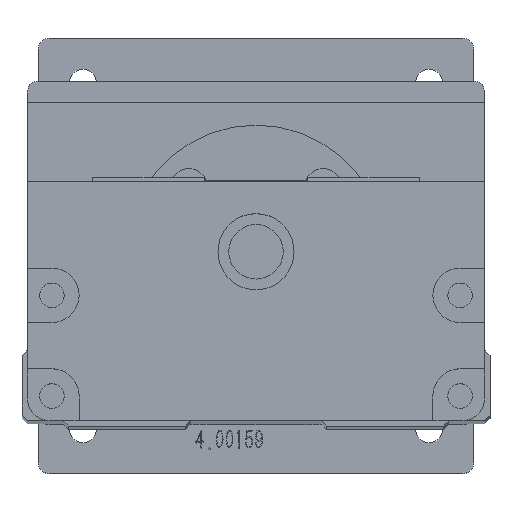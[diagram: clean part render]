
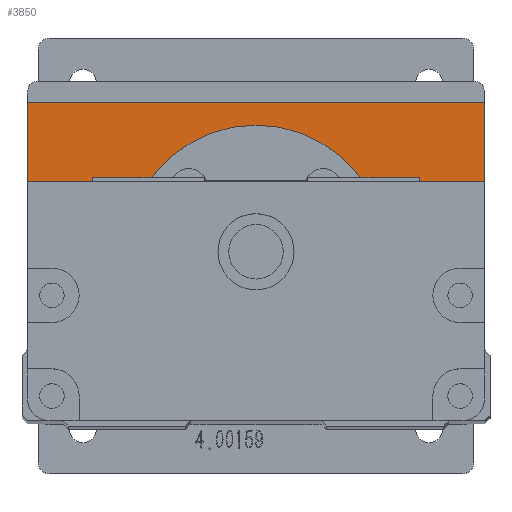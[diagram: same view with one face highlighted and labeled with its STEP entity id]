
A CAD part, top view. The second image highlights one B-rep face of the part: STEP entity #3850.
In plain terms, the highlighted planar face has unit normal (0, 0, 1) as drawn and (0, 0, -1) by its records, which use the part's own axes.
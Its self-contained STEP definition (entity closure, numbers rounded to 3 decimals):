
#285 = CIRCLE ( 'NONE', #30194, 4. ) ;
#1378 = DIRECTION ( 'NONE',  ( 1., 0., 0. ) ) ;
#2215 = EDGE_CURVE ( 'NONE', #21009, #17325, #9028, .T. ) ;
#2291 = LINE ( 'NONE', #18153, #9852 ) ;
#2632 = EDGE_CURVE ( 'NONE', #19777, #7944, #22664, .T. ) ;
#2639 = PLANE ( 'NONE',  #9579 ) ;
#3264 = CIRCLE ( 'NONE', #9855, 23.866 ) ;
#3850 = ADVANCED_FACE ( 'NONE', ( #6498, #11803 ), #2639, .F. ) ;
#4128 = VECTOR ( 'NONE', #13842, 1000. ) ;
#4156 = CARTESIAN_POINT ( 'NONE',  ( 42., 0., 0. ) ) ;
#4188 = VERTEX_POINT ( 'NONE', #20025 ) ;
#4230 = CARTESIAN_POINT ( 'NONE',  ( -42., 0., 0. ) ) ;
#4386 = EDGE_LOOP ( 'NONE', ( #22898, #17986, #11395, #30588 ) ) ;
#4799 = DIRECTION ( 'NONE',  ( 1., 0., 0. ) ) ;
#4828 = EDGE_CURVE ( 'NONE', #4942, #29903, #28027, .T. ) ;
#4942 = VERTEX_POINT ( 'NONE', #15875 ) ;
#4953 = EDGE_CURVE ( 'NONE', #7944, #4942, #2291, .T. ) ;
#5482 = CARTESIAN_POINT ( 'NONE',  ( 12.393, 10.604, 0. ) ) ;
#5955 = ORIENTED_EDGE ( 'NONE', *, *, #13885, .F. ) ;
#6087 = AXIS2_PLACEMENT_3D ( 'NONE', #16473, #8677, #28510 ) ;
#6224 = DIRECTION ( 'NONE',  ( -1., 0., 0. ) ) ;
#6498 = FACE_OUTER_BOUND ( 'NONE', #28987, .T. ) ;
#6641 = DIRECTION ( 'NONE',  ( -1., 0., 0. ) ) ;
#7452 = CARTESIAN_POINT ( 'NONE',  ( 42., 4., 0. ) ) ;
#7944 = VERTEX_POINT ( 'NONE', #18846 ) ;
#8076 = CARTESIAN_POINT ( 'NONE',  ( -12.393, 10.604, 0. ) ) ;
#8639 = EDGE_CURVE ( 'NONE', #17325, #18581, #3264, .T. ) ;
#8677 = DIRECTION ( 'NONE',  ( 0., 0., 1. ) ) ;
#9028 = LINE ( 'NONE', #23796, #4128 ) ;
#9579 = AXIS2_PLACEMENT_3D ( 'NONE', #24146, #9618, #26962 ) ;
#9618 = DIRECTION ( 'NONE',  ( 0., 0., 1. ) ) ;
#9721 = AXIS2_PLACEMENT_3D ( 'NONE', #15264, #19874, #17523 ) ;
#9852 = VECTOR ( 'NONE', #6224, 1000. ) ;
#9855 = AXIS2_PLACEMENT_3D ( 'NONE', #26571, #29021, #4799 ) ;
#9899 = ORIENTED_EDGE ( 'NONE', *, *, #4828, .F. ) ;
#11395 = ORIENTED_EDGE ( 'NONE', *, *, #27625, .F. ) ;
#11803 = FACE_BOUND ( 'NONE', #4386, .T. ) ;
#12034 = CARTESIAN_POINT ( 'NONE',  ( 23.866, 31., 0. ) ) ;
#12139 = VECTOR ( 'NONE', #24282, 1000. ) ;
#13210 = DIRECTION ( 'NONE',  ( 0., 0., -1. ) ) ;
#13536 = DIRECTION ( 'NONE',  ( -1., 0., 0. ) ) ;
#13842 = DIRECTION ( 'NONE',  ( -1., 0., 0. ) ) ;
#13885 = EDGE_CURVE ( 'NONE', #29903, #29649, #285, .T. ) ;
#13975 = EDGE_CURVE ( 'NONE', #4188, #29649, #20370, .T. ) ;
#15135 = EDGE_CURVE ( 'NONE', #4188, #19777, #30115, .T. ) ;
#15264 = CARTESIAN_POINT ( 'NONE',  ( 0., 31., 0. ) ) ;
#15875 = CARTESIAN_POINT ( 'NONE',  ( -42., 59., 0. ) ) ;
#16473 = CARTESIAN_POINT ( 'NONE',  ( 38., 4., 0. ) ) ;
#16827 = EDGE_CURVE ( 'NONE', #18581, #17101, #23997, .T. ) ;
#17101 = VERTEX_POINT ( 'NONE', #12034 ) ;
#17325 = VERTEX_POINT ( 'NONE', #8076 ) ;
#17523 = DIRECTION ( 'NONE',  ( 1., 0., 0. ) ) ;
#17830 = CARTESIAN_POINT ( 'NONE',  ( -42., 4., 0. ) ) ;
#17986 = ORIENTED_EDGE ( 'NONE', *, *, #2215, .F. ) ;
#18153 = CARTESIAN_POINT ( 'NONE',  ( 0., 59., 0. ) ) ;
#18581 = VERTEX_POINT ( 'NONE', #24293 ) ;
#18846 = CARTESIAN_POINT ( 'NONE',  ( 42., 59., 0. ) ) ;
#19777 = VERTEX_POINT ( 'NONE', #7452 ) ;
#19874 = DIRECTION ( 'NONE',  ( 0., 0., -1. ) ) ;
#20025 = CARTESIAN_POINT ( 'NONE',  ( 38., 0., 0. ) ) ;
#20265 = ORIENTED_EDGE ( 'NONE', *, *, #15135, .F. ) ;
#20370 = LINE ( 'NONE', #4230, #31324 ) ;
#20850 = DIRECTION ( 'NONE',  ( 0., 0., 1. ) ) ;
#21009 = VERTEX_POINT ( 'NONE', #5482 ) ;
#22664 = LINE ( 'NONE', #4156, #23045 ) ;
#22723 = ORIENTED_EDGE ( 'NONE', *, *, #2632, .F. ) ;
#22898 = ORIENTED_EDGE ( 'NONE', *, *, #8639, .F. ) ;
#23045 = VECTOR ( 'NONE', #23753, 1000. ) ;
#23753 = DIRECTION ( 'NONE',  ( 0., 1., 0. ) ) ;
#23796 = CARTESIAN_POINT ( 'NONE',  ( 0., 10.604, 0. ) ) ;
#23957 = CARTESIAN_POINT ( 'NONE',  ( -38., 0., 0. ) ) ;
#23997 = CIRCLE ( 'NONE', #27017, 23.866 ) ;
#24146 = CARTESIAN_POINT ( 'NONE',  ( 0., 0., 0. ) ) ;
#24282 = DIRECTION ( 'NONE',  ( 0., -1., 0. ) ) ;
#24293 = CARTESIAN_POINT ( 'NONE',  ( -23.866, 31., 0. ) ) ;
#24928 = ORIENTED_EDGE ( 'NONE', *, *, #4953, .F. ) ;
#26571 = CARTESIAN_POINT ( 'NONE',  ( 0., 31., 0. ) ) ;
#26962 = DIRECTION ( 'NONE',  ( 1., 0., 0. ) ) ;
#27017 = AXIS2_PLACEMENT_3D ( 'NONE', #30557, #13210, #1378 ) ;
#27625 = EDGE_CURVE ( 'NONE', #17101, #21009, #30262, .T. ) ;
#27707 = CARTESIAN_POINT ( 'NONE',  ( -38., 4., 0. ) ) ;
#28027 = LINE ( 'NONE', #29234, #12139 ) ;
#28510 = DIRECTION ( 'NONE',  ( -1., 0., 0. ) ) ;
#28987 = EDGE_LOOP ( 'NONE', ( #22723, #20265, #30326, #5955, #9899, #24928 ) ) ;
#29021 = DIRECTION ( 'NONE',  ( 0., 0., -1. ) ) ;
#29234 = CARTESIAN_POINT ( 'NONE',  ( -42., 0., 0. ) ) ;
#29649 = VERTEX_POINT ( 'NONE', #23957 ) ;
#29903 = VERTEX_POINT ( 'NONE', #17830 ) ;
#30115 = CIRCLE ( 'NONE', #6087, 4. ) ;
#30194 = AXIS2_PLACEMENT_3D ( 'NONE', #27707, #20850, #13536 ) ;
#30262 = CIRCLE ( 'NONE', #9721, 23.866 ) ;
#30326 = ORIENTED_EDGE ( 'NONE', *, *, #13975, .T. ) ;
#30557 = CARTESIAN_POINT ( 'NONE',  ( 0., 31., 0. ) ) ;
#30588 = ORIENTED_EDGE ( 'NONE', *, *, #16827, .F. ) ;
#31324 = VECTOR ( 'NONE', #6641, 1000. ) ;
